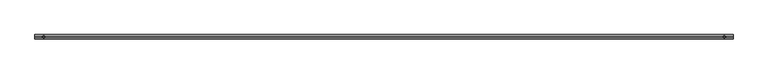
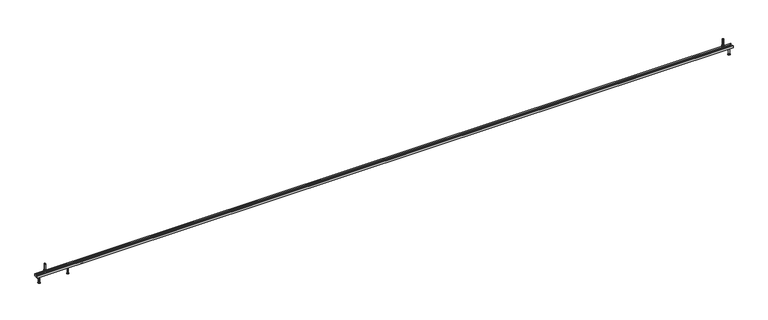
"""IFC4 building model written with IfcOpenShell, lengths in millimetres: fastener geometry, JTA-K JORDAHL® AnchorChannels : JTA-K L=6000 mm."""

from ifc_helpers import new_model, si_unit, point, frame, frame_2d, origin, place, context, project, spatial, polyline, circle_curve, trimmed, segment, composite_curve, outline, extrude, source, transform, mapped, element, save
from ifc_brep_helpers import plane_surface, cylinder_surface, revolved_surface, advanced_brep


def fastener_3d54363d(model_context):
    return source(origin(), model_context, "Body", "SolidModel", [
        advanced_brep(
        [(272.9166667, 0.0, -17.0), (286.4166667, 0.0, -17.0), (259.4166667, 0.0, -17.0), (264.4166667, 0.0, -80.0), (281.4166667, 0.0, -80.0), (272.9166667, 0.0, -80.0), (264.4166667, 0.0, -78.0), (281.4166667, 0.0, -78.0), (268.4166667, 0.0, -75.6905989), (277.4166667, 0.0, -75.6905989), (268.4166667, 0.0, -19.5), (277.4166667, 0.0, -19.5)],
        [
            (0, 1),
            (1, 2, circle_curve(frame((272.9166667, 0.0, -17.0), z_axis=(0.0, 0.0, 1.0), x_axis=(1.0, 0.0, 0.0)), 13.5)),
            (2, 0),
            (2, 1, circle_curve(frame((272.9166667, 0.0, -17.0), z_axis=(0.0, 0.0, 1.0), x_axis=(1.0, 0.0, 0.0)), 13.5)),
            (3, 4, circle_curve(frame((272.9166667, 0.0, -80.0), z_axis=(0.0, 0.0, -1.0), x_axis=(1.0, 0.0, 0.0)), 8.5)),
            (4, 5),
            (5, 3),
            (4, 3, circle_curve(frame((272.9166667, 0.0, -80.0), z_axis=(0.0, 0.0, -1.0), x_axis=(1.0, 0.0, 0.0)), 8.5)),
            (6, 7, circle_curve(frame((272.9166667, 0.0, -78.0), z_axis=(0.0, 0.0, -1.0), x_axis=(1.0, 0.0, 0.0)), 8.5)),
            (7, 4),
            (3, 6),
            (7, 6, circle_curve(frame((272.9166667, 0.0, -78.0), z_axis=(0.0, 0.0, -1.0), x_axis=(1.0, 0.0, 0.0)), 8.5)),
            (8, 9, circle_curve(frame((272.9166667, 0.0, -75.6905989), z_axis=(0.0, 0.0, -1.0), x_axis=(1.0, 0.0, 0.0)), 4.5)),
            (9, 7),
            (6, 8),
            (9, 8, circle_curve(frame((272.9166667, 0.0, -75.6905989), z_axis=(0.0, 0.0, -1.0), x_axis=(1.0, 0.0, 0.0)), 4.5)),
            (10, 11, circle_curve(frame((272.9166667, 0.0, -19.5), z_axis=(0.0, 0.0, -1.0), x_axis=(1.0, 0.0, 0.0)), 4.5)),
            (11, 9),
            (8, 10),
            (11, 10, circle_curve(frame((272.9166667, 0.0, -19.5), z_axis=(0.0, 0.0, -1.0), x_axis=(1.0, 0.0, 0.0)), 4.5)),
            (1, 11),
            (10, 2),
        ],
        [
            plane_surface(frame((272.9166667, 0.0, -17.0), z_axis=(0.0, 0.0, 1.0), x_axis=(1.0, 0.0, 0.0))),
            plane_surface(frame((272.9166667, 0.0, -80.0), z_axis=(0.0, 0.0, -1.0), x_axis=(1.0, 0.0, 0.0))),
            cylinder_surface(frame((272.9166667, 0.0, 2277.3150031), z_axis=(0.0, 0.0, 1.0), x_axis=(1.0, 0.0, 0.0)), 8.5),
            revolved_surface(polyline([(281.4166667, 0.0, -78.0), (277.4166667, 0.0, -75.6905989)]), (272.9166667, 0.0, 2277.3150031), (0.0, 0.0, 1.0)),
            cylinder_surface(frame((272.9166667, 0.0, 2277.3150031), z_axis=(0.0, 0.0, 1.0), x_axis=(1.0, 0.0, 0.0)), 4.5),
            revolved_surface(polyline([(277.4166667, 0.0, -19.5), (286.4166667, 0.0, -17.0)]), (272.9166667, 0.0, 2277.3150031), (0.0, 0.0, 1.0)),
        ],
        [
            (0, [[1, 2, 3]]),
            (0, [[-3, 4, -1]]),
            (1, [[5, 6, 7]]),
            (1, [[8, -7, -6]]),
            (2, [[9, 10, -5, 11]]),
            (2, [[12, -11, -8, -10]]),
            (3, [[13, 14, -9, 15]]),
            (3, [[16, -15, -12, -14]]),
            (4, [[17, 18, -13, 19]]),
            (4, [[20, -19, -16, -18]]),
            (5, [[-2, 21, -17, 22]]),
            (5, [[-4, -22, -20, -21]]),
        ],
    ),
        extrude(outline(polyline([(5925.0, 9.2376043), (5933.0, 4.6188022), (5933.0, -4.6188022), (5925.0, -9.2376043), (5917.0, -4.6188022), (5917.0, 4.6188022), (5925.0, 9.2376043)]), holes=[composite_curve([segment(trimmed(circle_curve(frame_2d((5925.0, 0.0)), 5.0), [point((5920.0, 0.0))], [point((5930.0, 0.0))], True, "CARTESIAN"), True, "CONTINUOUS"), segment(trimmed(circle_curve(frame_2d((5925.0, 0.0)), 5.0), [point((5930.0, 0.0))], [point((5920.0, 0.0))], True, "CARTESIAN"), True, "CONTINUOUS")], self_intersect=False)]), frame((0.0, 0.0, 17.0), z_axis=(0.0, 0.0, 1.0), x_axis=(1.0, 0.0, 0.0)), (0.0, 0.0, 1.0), 8.4),
        extrude(outline(composite_curve([segment(trimmed(circle_curve(frame_2d((5925.0, 0.0)), 10.0), [point((5915.0, 0.0))], [point((5935.0, 0.0))], False, "CARTESIAN"), True, "CONTINUOUS"), segment(trimmed(circle_curve(frame_2d((5925.0, 0.0)), 10.0), [point((5935.0, 0.0))], [point((5915.0, 0.0))], False, "CARTESIAN"), True, "CONTINUOUS")], self_intersect=False), holes=[composite_curve([segment(trimmed(circle_curve(frame_2d((5925.0, 0.0)), 5.25), [point((5919.75, 0.0))], [point((5930.25, 0.0))], True, "CARTESIAN"), True, "CONTINUOUS"), segment(trimmed(circle_curve(frame_2d((5925.0, 0.0)), 5.25), [point((5930.25, 0.0))], [point((5919.75, 0.0))], True, "CARTESIAN"), True, "CONTINUOUS")], self_intersect=False)]), frame((0.0, 0.0, 15.0), z_axis=(0.0, 0.0, 1.0), x_axis=(1.0, 0.0, 0.0)), (0.0, 0.0, 1.0), 2.0),
        extrude(outline(polyline([(75.0, 9.2376043), (83.0, 4.6188022), (83.0, -4.6188022), (75.0, -9.2376043), (67.0, -4.6188022), (67.0, 4.6188022), (75.0, 9.2376043)]), holes=[composite_curve([segment(trimmed(circle_curve(frame_2d((75.0, 0.0)), 5.0), [point((70.0, 0.0))], [point((80.0, 0.0))], True, "CARTESIAN"), True, "CONTINUOUS"), segment(trimmed(circle_curve(frame_2d((75.0, 0.0)), 5.0), [point((80.0, 0.0))], [point((70.0, 0.0))], True, "CARTESIAN"), True, "CONTINUOUS")], self_intersect=False)]), frame((0.0, 0.0, 17.0), z_axis=(0.0, 0.0, 1.0), x_axis=(1.0, 0.0, 0.0)), (0.0, 0.0, 1.0), 8.4),
        extrude(outline(composite_curve([segment(trimmed(circle_curve(frame_2d((75.0, 0.0)), 10.0), [point((65.0, 0.0))], [point((85.0, 0.0))], False, "CARTESIAN"), True, "CONTINUOUS"), segment(trimmed(circle_curve(frame_2d((75.0, 0.0)), 10.0), [point((85.0, 0.0))], [point((65.0, 0.0))], False, "CARTESIAN"), True, "CONTINUOUS")], self_intersect=False), holes=[composite_curve([segment(trimmed(circle_curve(frame_2d((75.0, 0.0)), 5.25), [point((69.75, 0.0))], [point((80.25, 0.0))], True, "CARTESIAN"), True, "CONTINUOUS"), segment(trimmed(circle_curve(frame_2d((75.0, 0.0)), 5.25), [point((80.25, 0.0))], [point((69.75, 0.0))], True, "CARTESIAN"), True, "CONTINUOUS")], self_intersect=False)]), frame((0.0, 0.0, 15.0), z_axis=(0.0, 0.0, 1.0), x_axis=(1.0, 0.0, 0.0)), (0.0, 0.0, 1.0), 2.0),
        advanced_brep(
        [(5932.0, 16.0, -3.0), (5932.0, -16.0, -3.0), (5932.0, -16.0, -11.0), (5932.0, 16.0, -11.0), (5918.0, 16.0, -3.0), (5918.0, 16.0, -11.0), (5918.0, -16.0, -11.0), (5918.0, -16.0, -3.0), (5930.0, 0.0, -3.0), (5920.0, 0.0, -3.0), (5920.0, 0.0, 77.0), (5930.0, 0.0, 77.0)],
        [
            (0, 1),
            (1, 2),
            (2, 3),
            (3, 0),
            (4, 5),
            (5, 6),
            (6, 7),
            (7, 4),
            (0, 4),
            (7, 1),
            (8, 9, circle_curve(frame((5925.0, 0.0, -3.0), z_axis=(0.0, 0.0, -1.0), x_axis=(1.0, 0.0, 0.0)), 5.0)),
            (9, 8, circle_curve(frame((5925.0, 0.0, -3.0), z_axis=(0.0, 0.0, -1.0), x_axis=(1.0, 0.0, 0.0)), 5.0)),
            (6, 2),
            (5, 3),
            (10, 11, circle_curve(frame((5925.0, 0.0, 77.0), z_axis=(0.0, 0.0, 1.0), x_axis=(1.0, 0.0, 0.0)), 5.0)),
            (11, 10, circle_curve(frame((5925.0, 0.0, 77.0), z_axis=(0.0, 0.0, 1.0), x_axis=(1.0, 0.0, 0.0)), 5.0)),
            (10, 9),
            (8, 11),
        ],
        [
            plane_surface(frame((5932.0, -16.0, -3.0), z_axis=(1.0, 0.0, 0.0), x_axis=(0.0, -1.0, 0.0))),
            plane_surface(frame((5918.0, -16.0, -3.0), z_axis=(-1.0, 0.0, 0.0), x_axis=(0.0, 1.0, 0.0))),
            plane_surface(frame((5932.0, 16.0, -3.0), z_axis=(0.0, 0.0, 1.0), x_axis=(-1.0, 0.0, 0.0))),
            plane_surface(frame((5932.0, -16.0, -3.0), z_axis=(0.0, -1.0, 0.0), x_axis=(-1.0, 0.0, 0.0))),
            plane_surface(frame((5932.0, -16.0, -11.0), z_axis=(0.0, 0.0, -1.0), x_axis=(-1.0, 0.0, 0.0))),
            plane_surface(frame((5932.0, 16.0, -11.0), z_axis=(0.0, 1.0, 0.0), x_axis=(-1.0, 0.0, 0.0))),
            plane_surface(frame((5930.0, 0.0, 77.0), z_axis=(0.0, 0.0, 1.0), x_axis=(0.0, 1.0, 0.0))),
            cylinder_surface(frame((5925.0, 0.0, -3.0), z_axis=(0.0, 0.0, 1.0), x_axis=(1.0, 0.0, 0.0)), 5.0),
        ],
        [
            (0, [[1, 2, 3, 4]]),
            (1, [[5, 6, 7, 8]]),
            (2, [[-1, 9, -8, 10], [11, 12]]),
            (3, [[-2, -10, -7, 13]]),
            (4, [[-3, -13, -6, 14]]),
            (5, [[-4, -14, -5, -9]]),
            (6, [[15, 16]]),
            (7, [[-15, 17, -11, 18]]),
            (7, [[-16, -18, -12, -17]]),
        ],
    ),
        advanced_brep(
        [(82.0, 16.0, -3.0), (82.0, -16.0, -3.0), (82.0, -16.0, -11.0), (82.0, 16.0, -11.0), (68.0, 16.0, -3.0), (68.0, 16.0, -11.0), (68.0, -16.0, -11.0), (68.0, -16.0, -3.0), (80.0, 0.0, -3.0), (70.0, 0.0, -3.0), (70.0, 0.0, 77.0), (80.0, 0.0, 77.0)],
        [
            (0, 1),
            (1, 2),
            (2, 3),
            (3, 0),
            (4, 5),
            (5, 6),
            (6, 7),
            (7, 4),
            (0, 4),
            (7, 1),
            (8, 9, circle_curve(frame((75.0, 0.0, -3.0), z_axis=(0.0, 0.0, -1.0), x_axis=(1.0, 0.0, 0.0)), 5.0)),
            (9, 8, circle_curve(frame((75.0, 0.0, -3.0), z_axis=(0.0, 0.0, -1.0), x_axis=(1.0, 0.0, 0.0)), 5.0)),
            (6, 2),
            (5, 3),
            (10, 11, circle_curve(frame((75.0, 0.0, 77.0), z_axis=(0.0, 0.0, 1.0), x_axis=(1.0, 0.0, 0.0)), 5.0)),
            (11, 10, circle_curve(frame((75.0, 0.0, 77.0), z_axis=(0.0, 0.0, 1.0), x_axis=(1.0, 0.0, 0.0)), 5.0)),
            (10, 9),
            (8, 11),
        ],
        [
            plane_surface(frame((82.0, -16.0, -3.0), z_axis=(1.0, 0.0, 0.0), x_axis=(0.0, -1.0, 0.0))),
            plane_surface(frame((68.0, -16.0, -3.0), z_axis=(-1.0, 0.0, 0.0), x_axis=(0.0, 1.0, 0.0))),
            plane_surface(frame((82.0, 16.0, -3.0), z_axis=(0.0, 0.0, 1.0), x_axis=(-1.0, 0.0, 0.0))),
            plane_surface(frame((82.0, -16.0, -3.0), z_axis=(0.0, -1.0, 0.0), x_axis=(-1.0, 0.0, 0.0))),
            plane_surface(frame((82.0, -16.0, -11.0), z_axis=(0.0, 0.0, -1.0), x_axis=(-1.0, 0.0, 0.0))),
            plane_surface(frame((82.0, 16.0, -11.0), z_axis=(0.0, 1.0, 0.0), x_axis=(-1.0, 0.0, 0.0))),
            plane_surface(frame((80.0, 0.0, 77.0), z_axis=(0.0, 0.0, 1.0), x_axis=(0.0, 1.0, 0.0))),
            cylinder_surface(frame((75.0, 0.0, -3.0), z_axis=(0.0, 0.0, 1.0), x_axis=(1.0, 0.0, 0.0)), 5.0),
        ],
        [
            (0, [[1, 2, 3, 4]]),
            (1, [[5, 6, 7, 8]]),
            (2, [[-1, 9, -8, 10], [11, 12]]),
            (3, [[-2, -10, -7, 13]]),
            (4, [[-3, -13, -6, 14]]),
            (5, [[-4, -14, -5, -9]]),
            (6, [[15, 16]]),
            (7, [[-15, 17, -11, 18]]),
            (7, [[-16, -18, -12, -17]]),
        ],
    ),
        advanced_brep(
        [(5975.0, 0.0, -17.0), (5988.5, 0.0, -17.0), (5961.5, 0.0, -17.0), (5966.5, 0.0, -80.0), (5983.5, 0.0, -80.0), (5975.0, 0.0, -80.0), (5966.5, 0.0, -78.0), (5983.5, 0.0, -78.0), (5970.5, 0.0, -75.6905989), (5979.5, 0.0, -75.6905989), (5970.5, 0.0, -19.5), (5979.5, 0.0, -19.5)],
        [
            (0, 1),
            (1, 2, circle_curve(frame((5975.0, 0.0, -17.0), z_axis=(0.0, 0.0, 1.0), x_axis=(1.0, 0.0, 0.0)), 13.5)),
            (2, 0),
            (2, 1, circle_curve(frame((5975.0, 0.0, -17.0), z_axis=(0.0, 0.0, 1.0), x_axis=(1.0, 0.0, 0.0)), 13.5)),
            (3, 4, circle_curve(frame((5975.0, 0.0, -80.0), z_axis=(0.0, 0.0, -1.0), x_axis=(1.0, 0.0, 0.0)), 8.5)),
            (4, 5),
            (5, 3),
            (4, 3, circle_curve(frame((5975.0, 0.0, -80.0), z_axis=(0.0, 0.0, -1.0), x_axis=(1.0, 0.0, 0.0)), 8.5)),
            (6, 7, circle_curve(frame((5975.0, 0.0, -78.0), z_axis=(0.0, 0.0, -1.0), x_axis=(1.0, 0.0, 0.0)), 8.5)),
            (7, 4),
            (3, 6),
            (7, 6, circle_curve(frame((5975.0, 0.0, -78.0), z_axis=(0.0, 0.0, -1.0), x_axis=(1.0, 0.0, 0.0)), 8.5)),
            (8, 9, circle_curve(frame((5975.0, 0.0, -75.6905989), z_axis=(0.0, 0.0, -1.0), x_axis=(1.0, 0.0, 0.0)), 4.5)),
            (9, 7),
            (6, 8),
            (9, 8, circle_curve(frame((5975.0, 0.0, -75.6905989), z_axis=(0.0, 0.0, -1.0), x_axis=(1.0, 0.0, 0.0)), 4.5)),
            (10, 11, circle_curve(frame((5975.0, 0.0, -19.5), z_axis=(0.0, 0.0, -1.0), x_axis=(1.0, 0.0, 0.0)), 4.5)),
            (11, 9),
            (8, 10),
            (11, 10, circle_curve(frame((5975.0, 0.0, -19.5), z_axis=(0.0, 0.0, -1.0), x_axis=(1.0, 0.0, 0.0)), 4.5)),
            (1, 11),
            (10, 2),
        ],
        [
            plane_surface(frame((5975.0, 0.0, -17.0), z_axis=(0.0, 0.0, 1.0), x_axis=(1.0, 0.0, 0.0))),
            plane_surface(frame((5975.0, 0.0, -80.0), z_axis=(0.0, 0.0, -1.0), x_axis=(1.0, 0.0, 0.0))),
            cylinder_surface(frame((5975.0, 0.0, 2277.3150031), z_axis=(0.0, 0.0, 1.0), x_axis=(1.0, 0.0, 0.0)), 8.5),
            revolved_surface(polyline([(5983.5, 0.0, -78.0), (5979.5, 0.0, -75.6905989)]), (5975.0, 0.0, 2277.3150031), (0.0, 0.0, 1.0)),
            cylinder_surface(frame((5975.0, 0.0, 2277.3150031), z_axis=(0.0, 0.0, 1.0), x_axis=(1.0, 0.0, 0.0)), 4.5),
            revolved_surface(polyline([(5979.5, 0.0, -19.5), (5988.5, 0.0, -17.0)]), (5975.0, 0.0, 2277.3150031), (0.0, 0.0, 1.0)),
        ],
        [
            (0, [[1, 2, 3]]),
            (0, [[-3, 4, -1]]),
            (1, [[5, 6, 7]]),
            (1, [[8, -7, -6]]),
            (2, [[9, 10, -5, 11]]),
            (2, [[12, -11, -8, -10]]),
            (3, [[13, 14, -9, 15]]),
            (3, [[16, -15, -12, -14]]),
            (4, [[17, 18, -13, 19]]),
            (4, [[20, -19, -16, -18]]),
            (5, [[-2, 21, -17, 22]]),
            (5, [[-4, -22, -20, -21]]),
        ],
    ),
        advanced_brep(
        [(25.0, 0.0, -17.0), (38.5, 0.0, -17.0), (11.5, 0.0, -17.0), (16.5, 0.0, -80.0), (33.5, 0.0, -80.0), (25.0, 0.0, -80.0), (16.5, 0.0, -78.0), (33.5, 0.0, -78.0), (20.5, 0.0, -75.6905989), (29.5, 0.0, -75.6905989), (20.5, 0.0, -19.5), (29.5, 0.0, -19.5)],
        [
            (0, 1),
            (1, 2, circle_curve(frame((25.0, 0.0, -17.0), z_axis=(0.0, 0.0, 1.0), x_axis=(1.0, 0.0, 0.0)), 13.5)),
            (2, 0),
            (2, 1, circle_curve(frame((25.0, 0.0, -17.0), z_axis=(0.0, 0.0, 1.0), x_axis=(1.0, 0.0, 0.0)), 13.5)),
            (3, 4, circle_curve(frame((25.0, 0.0, -80.0), z_axis=(0.0, 0.0, -1.0), x_axis=(1.0, 0.0, 0.0)), 8.5)),
            (4, 5),
            (5, 3),
            (4, 3, circle_curve(frame((25.0, 0.0, -80.0), z_axis=(0.0, 0.0, -1.0), x_axis=(1.0, 0.0, 0.0)), 8.5)),
            (6, 7, circle_curve(frame((25.0, 0.0, -78.0), z_axis=(0.0, 0.0, -1.0), x_axis=(1.0, 0.0, 0.0)), 8.5)),
            (7, 4),
            (3, 6),
            (7, 6, circle_curve(frame((25.0, 0.0, -78.0), z_axis=(0.0, 0.0, -1.0), x_axis=(1.0, 0.0, 0.0)), 8.5)),
            (8, 9, circle_curve(frame((25.0, 0.0, -75.6905989), z_axis=(0.0, 0.0, -1.0), x_axis=(1.0, 0.0, 0.0)), 4.5)),
            (9, 7),
            (6, 8),
            (9, 8, circle_curve(frame((25.0, 0.0, -75.6905989), z_axis=(0.0, 0.0, -1.0), x_axis=(1.0, 0.0, 0.0)), 4.5)),
            (10, 11, circle_curve(frame((25.0, 0.0, -19.5), z_axis=(0.0, 0.0, -1.0), x_axis=(1.0, 0.0, 0.0)), 4.5)),
            (11, 9),
            (8, 10),
            (11, 10, circle_curve(frame((25.0, 0.0, -19.5), z_axis=(0.0, 0.0, -1.0), x_axis=(1.0, 0.0, 0.0)), 4.5)),
            (1, 11),
            (10, 2),
        ],
        [
            plane_surface(frame((25.0, 0.0, -17.0), z_axis=(0.0, 0.0, 1.0), x_axis=(1.0, 0.0, 0.0))),
            plane_surface(frame((25.0, 0.0, -80.0), z_axis=(0.0, 0.0, -1.0), x_axis=(1.0, 0.0, 0.0))),
            cylinder_surface(frame((25.0, 0.0, 2277.3150031), z_axis=(0.0, 0.0, 1.0), x_axis=(1.0, 0.0, 0.0)), 8.5),
            revolved_surface(polyline([(33.5, 0.0, -78.0), (29.5, 0.0, -75.6905989)]), (25.0, 0.0, 2277.3150031), (0.0, 0.0, 1.0)),
            cylinder_surface(frame((25.0, 0.0, 2277.3150031), z_axis=(0.0, 0.0, 1.0), x_axis=(1.0, 0.0, 0.0)), 4.5),
            revolved_surface(polyline([(29.5, 0.0, -19.5), (38.5, 0.0, -17.0)]), (25.0, 0.0, 2277.3150031), (0.0, 0.0, 1.0)),
        ],
        [
            (0, [[1, 2, 3]]),
            (0, [[-3, 4, -1]]),
            (1, [[5, 6, 7]]),
            (1, [[8, -7, -6]]),
            (2, [[9, 10, -5, 11]]),
            (2, [[12, -11, -8, -10]]),
            (3, [[13, 14, -9, 15]]),
            (3, [[16, -15, -12, -14]]),
            (4, [[17, 18, -13, 19]]),
            (4, [[20, -19, -16, -18]]),
            (5, [[-2, 21, -17, 22]]),
            (5, [[-4, -22, -20, -21]]),
        ],
    ),
        extrude(outline(polyline([(19.0, 0.0), (19.0, -17.0), (-19.0, -17.0), (-19.0, 0.0), (-9.0, 0.0), (-9.0, -3.0), (-16.0, -3.0), (-16.0, -14.0), (16.0, -14.0), (16.0, -3.0), (9.0, -3.0), (9.0, 0.0), (19.0, 0.0)])), frame((0.0, 0.0, 0.0), z_axis=(1.0, 0.0, 0.0), x_axis=(0.0, 1.0, 0.0)), (0.0, 0.0, 1.0), 6000.0),
    ])


if __name__ == "__main__":
    model = new_model("IFC4")
    model_context = context("Model", 3, world=origin())
    ifc_project = project(units=[si_unit("LENGTHUNIT", "METRE", prefix="MILLI")], contexts=[model_context])
    site = spatial("IfcSite", under=ifc_project)
    building = spatial("IfcBuilding", under=site)
    placement = place(None, origin())
    fastener_shape = fastener_3d54363d(model_context)
    element("IfcFastener", 1, ObjectType="JTA-K JORDAHL® AnchorChannels : JTA-K L=6000 mm", at=placement, inside=building, context=model_context, shape_type="MappedRepresentation", body=[
        mapped(fastener_shape, transform((0.0, 0.0, 0.0), x_axis=(1.0, 0.0, 0.0), y_axis=(0.0, 1.0, 0.0), z_axis=(0.0, 0.0, 1.0))),
    ])
    save(model, "model.ifc")
